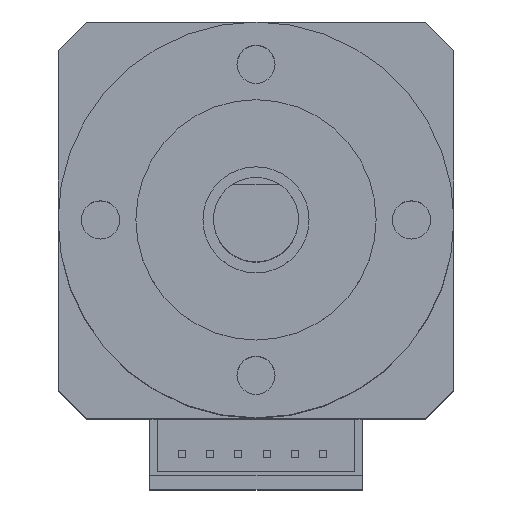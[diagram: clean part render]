
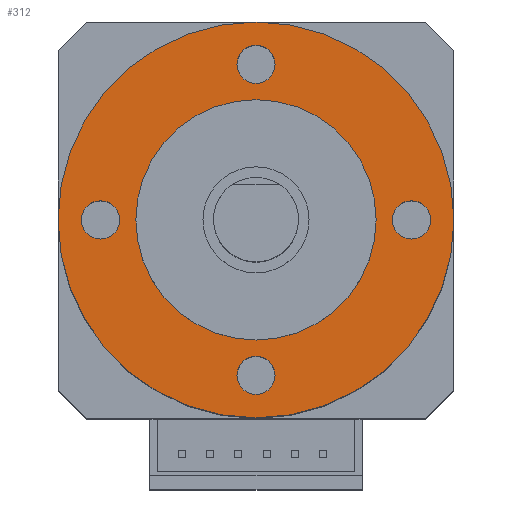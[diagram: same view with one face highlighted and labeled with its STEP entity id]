
A CAD part, top view. The second image highlights one B-rep face of the part: STEP entity #312.
In plain terms, the highlighted planar face has unit normal (0, 0, 1).
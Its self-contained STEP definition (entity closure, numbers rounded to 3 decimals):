
#123=PLANE('',#1955);
#312=ADVANCED_FACE('',(#859,#860,#861,#862,#863),#123,.F.);
#859=FACE_BOUND('',#914,.T.);
#860=FACE_BOUND('',#915,.T.);
#861=FACE_BOUND('',#916,.T.);
#862=FACE_BOUND('',#917,.T.);
#863=FACE_BOUND('',#918,.T.);
#914=EDGE_LOOP('',(#1062));
#915=EDGE_LOOP('',(#1063));
#916=EDGE_LOOP('',(#1064));
#917=EDGE_LOOP('',(#1065));
#918=EDGE_LOOP('',(#1066));
#1062=ORIENTED_EDGE('',*,*,#1681,.T.);
#1063=ORIENTED_EDGE('',*,*,#1682,.T.);
#1064=ORIENTED_EDGE('',*,*,#1683,.T.);
#1065=ORIENTED_EDGE('',*,*,#1684,.T.);
#1066=ORIENTED_EDGE('',*,*,#1676,.F.);
#1511=VERTEX_POINT('',#2576);
#1516=VERTEX_POINT('',#2588);
#1517=VERTEX_POINT('',#2590);
#1518=VERTEX_POINT('',#2592);
#1519=VERTEX_POINT('',#2594);
#1676=EDGE_CURVE('',#1511,#1511,#1907,.T.);
#1681=EDGE_CURVE('',#1516,#1516,#1912,.T.);
#1682=EDGE_CURVE('',#1517,#1517,#1913,.T.);
#1683=EDGE_CURVE('',#1518,#1518,#1914,.T.);
#1684=EDGE_CURVE('',#1519,#1519,#1915,.T.);
#1907=CIRCLE('',#1944,14.);
#1912=CIRCLE('',#1951,1.35);
#1913=CIRCLE('',#1952,1.35);
#1914=CIRCLE('',#1953,1.35);
#1915=CIRCLE('',#1954,1.35);
#1944=AXIS2_PLACEMENT_3D('',#2575,#2105,#2106);
#1951=AXIS2_PLACEMENT_3D('',#2587,#2119,#2120);
#1952=AXIS2_PLACEMENT_3D('',#2589,#2121,#2122);
#1953=AXIS2_PLACEMENT_3D('',#2591,#2123,#2124);
#1954=AXIS2_PLACEMENT_3D('',#2593,#2125,#2126);
#1955=AXIS2_PLACEMENT_3D('',#2595,#2127,#2128);
#2105=DIRECTION('',(0.,0.,-1.));
#2106=DIRECTION('',(1.,0.,0.));
#2119=DIRECTION('',(0.,0.,-1.));
#2120=DIRECTION('',(-1.,0.,0.));
#2121=DIRECTION('',(0.,0.,-1.));
#2122=DIRECTION('',(-1.,0.,0.));
#2123=DIRECTION('',(0.,0.,-1.));
#2124=DIRECTION('',(-1.,0.,0.));
#2125=DIRECTION('',(0.,0.,-1.));
#2126=DIRECTION('',(-1.,0.,0.));
#2127=DIRECTION('',(0.,0.,-1.));
#2128=DIRECTION('',(-1.,0.,0.));
#2575=CARTESIAN_POINT('',(0.,0.,0.));
#2576=CARTESIAN_POINT('',(14.,0.,0.));
#2587=CARTESIAN_POINT('',(0.,-11.,0.));
#2588=CARTESIAN_POINT('',(-1.35,-11.,0.));
#2589=CARTESIAN_POINT('',(11.,0.,0.));
#2590=CARTESIAN_POINT('',(9.65,0.,0.));
#2591=CARTESIAN_POINT('',(0.,11.,0.));
#2592=CARTESIAN_POINT('',(-1.35,11.,0.));
#2593=CARTESIAN_POINT('',(-11.,0.,0.));
#2594=CARTESIAN_POINT('',(-12.35,0.,0.));
#2595=CARTESIAN_POINT('',(0.,0.,0.));
